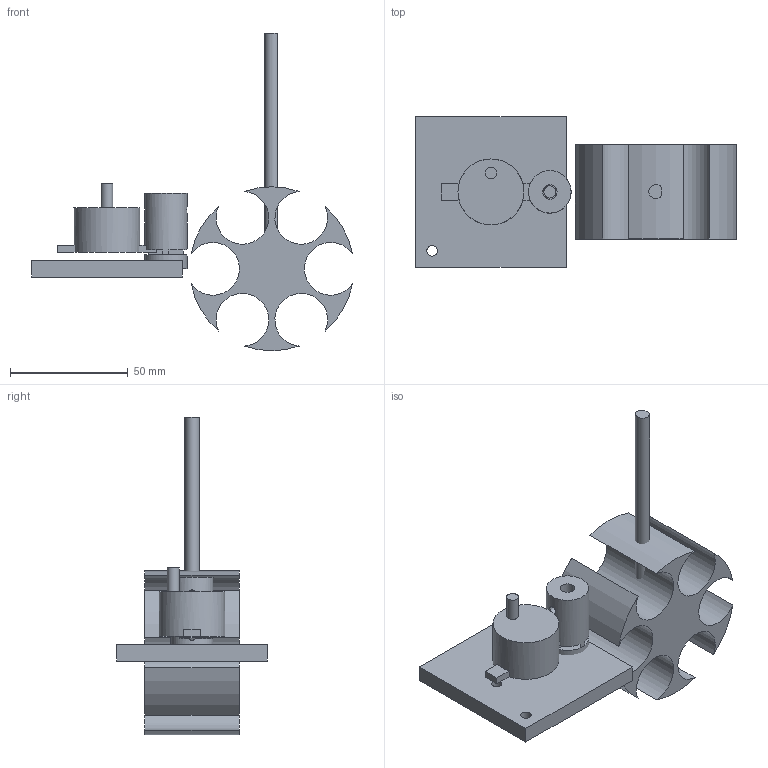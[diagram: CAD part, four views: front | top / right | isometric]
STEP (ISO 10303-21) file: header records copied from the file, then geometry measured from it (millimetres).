
FILE_DESCRIPTION(('Open CASCADE Model'),'2;1');
FILE_NAME('Open CASCADE Shape Model','2026-09-10T23:36:53',('Author'),( 'Open CASCADE'),'Open CASCADE STEP processor 7.9','Open CASCADE 7.9' ,'Unknown');
FILE_SCHEMA(('AUTOMOTIVE_DESIGN { 1 0 10303 214 1 1 1 1 }'));
Length unit declared in the file: millimetre
Products named in the file (7): TenderCells_Stepper_Drive; SixPocketRotor; 6mmDshaft; 696Bearing; 28BYJ48Mount; 28BYJ48Stepper; 5to6Coupler
Assembly tree (6 placements, depth 2):
  TenderCells_Stepper_Drive
    SixPocketRotor
    6mmDshaft
    696Bearing
    28BYJ48Mount
    28BYJ48Stepper
    5to6Coupler
Bounding box: 136.21 x 64 x 134.8 mm (x, y, z)
Volume: 109669.5 mm3; surface area: 41488.3 mm2
Topology: 6 solids, 6 shells, 63 faces, 162 edges, 108 vertices
Faces by surface type: plane 33, cylinder 30
Full cylindrical faces by diameter (mm): 3.4 x2, 4.2 x1, 4.5 x1, 5 x1, 5.15 x2, 6 x1, 6.15 x1, 15 x1, 18 x2, 28 x1
Entity records: 6035 total; most frequent: CARTESIAN_POINT 2798, DIRECTION 559, ORIENTED_EDGE 324, PCURVE 324, DEFINITIONAL_REPRESENTATION 324, LINE 262, VECTOR 262, EDGE_CURVE 162
